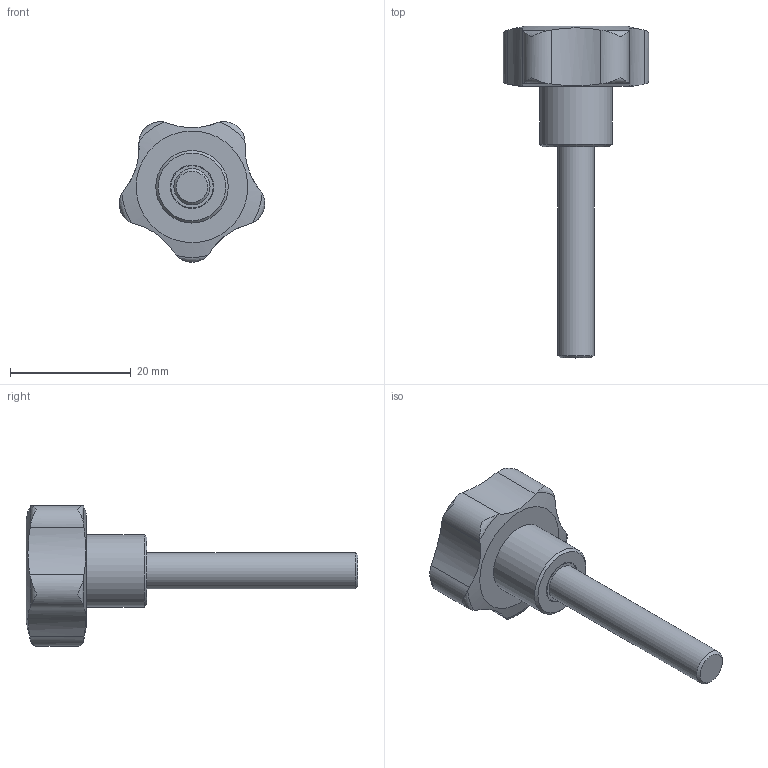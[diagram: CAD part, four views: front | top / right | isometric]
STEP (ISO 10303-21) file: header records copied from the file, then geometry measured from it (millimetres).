
FILE_DESCRIPTION( ( 'STEP AP203' ), '1' );
FILE_NAME( 'C:/Temp/Ganter_Step_05_03_2020/data/2_2/gn_5337_4/gn_5337_4_s/Star knob GN 5337.4-25-M6-35.stp', '2020-03-05T12:09:41', ( 'License CC BY-ND 4.0' ), ( 'CADENAS' ), ' ', 'PARTsolutions', ' ' );
FILE_SCHEMA( ( 'CONFIG_CONTROL_DESIGN' ) );
Length unit declared in the file: millimetre
Products named in the file (1): _Star knob GN 5337.4-25-M6-35
Bounding box: 24.11 x 55 x 23.28 mm (x, y, z)
Volume: 5804.4 mm3; surface area: 2483.6 mm2
Topology: 1 solids, 1 shells, 34 faces, 95 edges, 66 vertices
Faces by surface type: cylinder 14, torus 10, plane 5, cone 3, bspline 1, sphere 1
Full cylindrical faces by diameter (mm): 6 x1, 7 x1, 7.2 x1, 12 x1
Entity records: 1417 total; most frequent: CARTESIAN_POINT 629, ORIENTED_EDGE 164, DIRECTION 122, EDGE_CURVE 82, VERTEX_POINT 63, AXIS2_PLACEMENT_3D 56, B_SPLINE_CURVE_WITH_KNOTS 50, EDGE_LOOP 46
